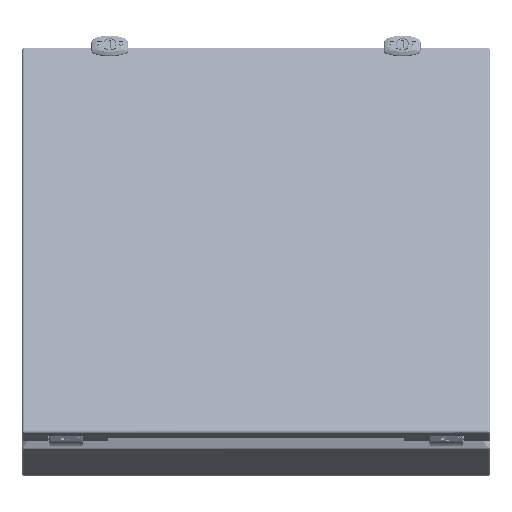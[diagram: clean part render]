
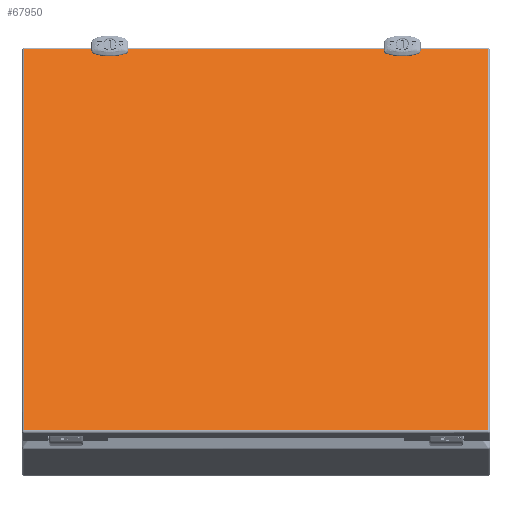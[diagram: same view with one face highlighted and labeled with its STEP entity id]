
A CAD part, top view. The second image highlights one B-rep face of the part: STEP entity #67950.
In plain terms, the highlighted planar face has unit normal (0, 0.574, 0.819) as drawn and (0, 0, 1) by its records, which use the part's own axes.
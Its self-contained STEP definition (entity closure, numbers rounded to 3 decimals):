
#5384=LINE('',#106834,#10879);
#5419=LINE('',#106932,#10914);
#5422=LINE('',#106945,#10917);
#5426=LINE('',#106962,#10921);
#5427=LINE('',#106964,#10922);
#5428=LINE('',#106968,#10923);
#5429=LINE('',#106972,#10924);
#5430=LINE('',#106974,#10925);
#5431=LINE('',#106976,#10926);
#5432=LINE('',#106978,#10927);
#5433=LINE('',#106980,#10928);
#5434=LINE('',#106981,#10929);
#10879=VECTOR('',#81559,0.394);
#10914=VECTOR('',#81628,0.394);
#10917=VECTOR('',#81643,0.394);
#10921=VECTOR('',#81665,0.394);
#10922=VECTOR('',#81666,0.394);
#10923=VECTOR('',#81669,0.394);
#10924=VECTOR('',#81672,0.394);
#10925=VECTOR('',#81673,0.394);
#10926=VECTOR('',#81674,0.394);
#10927=VECTOR('',#81675,0.394);
#10928=VECTOR('',#81676,0.394);
#10929=VECTOR('',#81677,0.394);
#17146=FACE_OUTER_BOUND('',#21322,.T.);
#21322=EDGE_LOOP('',(#48638,#48639,#48640,#48641,#48642,#48643,#48644,#48645,
#48646,#48647,#48648,#48649,#48650,#48651,#48652,#48653));
#25270=CIRCLE('',#73122,0.03);
#25272=CIRCLE('',#73126,0.03);
#25274=CIRCLE('',#73133,0.03);
#25275=CIRCLE('',#73134,0.03);
#28961=VERTEX_POINT('',#106832);
#28962=VERTEX_POINT('',#106833);
#29007=VERTEX_POINT('',#106929);
#29008=VERTEX_POINT('',#106931);
#29010=VERTEX_POINT('',#106938);
#29012=VERTEX_POINT('',#106944);
#29016=VERTEX_POINT('',#106961);
#29017=VERTEX_POINT('',#106963);
#29018=VERTEX_POINT('',#106965);
#29019=VERTEX_POINT('',#106967);
#29020=VERTEX_POINT('',#106969);
#29021=VERTEX_POINT('',#106971);
#29022=VERTEX_POINT('',#106973);
#29023=VERTEX_POINT('',#106975);
#29024=VERTEX_POINT('',#106977);
#29025=VERTEX_POINT('',#106979);
#36204=EDGE_CURVE('',#28961,#28962,#5384,.T.);
#36253=EDGE_CURVE('',#29008,#29007,#5419,.T.);
#36257=EDGE_CURVE('',#29010,#28961,#25270,.T.);
#36260=EDGE_CURVE('',#29012,#29010,#5422,.T.);
#36263=EDGE_CURVE('',#29007,#29012,#25272,.T.);
#36269=EDGE_CURVE('',#28962,#29016,#5426,.T.);
#36270=EDGE_CURVE('',#29016,#29017,#5427,.T.);
#36271=EDGE_CURVE('',#29017,#29018,#25274,.T.);
#36272=EDGE_CURVE('',#29018,#29019,#5428,.T.);
#36273=EDGE_CURVE('',#29019,#29020,#25275,.T.);
#36274=EDGE_CURVE('',#29020,#29021,#5429,.T.);
#36275=EDGE_CURVE('',#29021,#29022,#5430,.T.);
#36276=EDGE_CURVE('',#29023,#29022,#5431,.T.);
#36277=EDGE_CURVE('',#29023,#29024,#5432,.T.);
#36278=EDGE_CURVE('',#29024,#29025,#5433,.T.);
#36279=EDGE_CURVE('',#29025,#29008,#5434,.T.);
#48638=ORIENTED_EDGE('',*,*,#36253,.T.);
#48639=ORIENTED_EDGE('',*,*,#36263,.T.);
#48640=ORIENTED_EDGE('',*,*,#36260,.T.);
#48641=ORIENTED_EDGE('',*,*,#36257,.T.);
#48642=ORIENTED_EDGE('',*,*,#36204,.T.);
#48643=ORIENTED_EDGE('',*,*,#36269,.T.);
#48644=ORIENTED_EDGE('',*,*,#36270,.T.);
#48645=ORIENTED_EDGE('',*,*,#36271,.T.);
#48646=ORIENTED_EDGE('',*,*,#36272,.T.);
#48647=ORIENTED_EDGE('',*,*,#36273,.T.);
#48648=ORIENTED_EDGE('',*,*,#36274,.T.);
#48649=ORIENTED_EDGE('',*,*,#36275,.T.);
#48650=ORIENTED_EDGE('',*,*,#36276,.F.);
#48651=ORIENTED_EDGE('',*,*,#36277,.T.);
#48652=ORIENTED_EDGE('',*,*,#36278,.T.);
#48653=ORIENTED_EDGE('',*,*,#36279,.T.);
#65996=PLANE('',#73132);
#67950=ADVANCED_FACE('',(#17146),#65996,.T.);
#73122=AXIS2_PLACEMENT_3D('',#106939,#81637,#81638);
#73126=AXIS2_PLACEMENT_3D('',#106949,#81649,#81650);
#73132=AXIS2_PLACEMENT_3D('',#106960,#81663,#81664);
#73133=AXIS2_PLACEMENT_3D('',#106966,#81667,#81668);
#73134=AXIS2_PLACEMENT_3D('',#106970,#81670,#81671);
#81559=DIRECTION('',(0.,1.,0.));
#81628=DIRECTION('',(0.,-1.,0.));
#81637=DIRECTION('center_axis',(0.,0.,-1.));
#81638=DIRECTION('ref_axis',(-1.,0.,0.));
#81643=DIRECTION('',(-1.,0.,0.));
#81649=DIRECTION('center_axis',(0.,0.,-1.));
#81650=DIRECTION('ref_axis',(0.,-1.,0.));
#81663=DIRECTION('center_axis',(0.,0.,1.));
#81664=DIRECTION('ref_axis',(1.,0.,0.));
#81665=DIRECTION('',(-1.,0.,0.));
#81666=DIRECTION('',(0.,-1.,0.));
#81667=DIRECTION('center_axis',(0.,0.,-1.));
#81668=DIRECTION('ref_axis',(0.,-1.,0.));
#81669=DIRECTION('',(-1.,0.,0.));
#81670=DIRECTION('center_axis',(0.,0.,-1.));
#81671=DIRECTION('ref_axis',(-1.,0.,0.));
#81672=DIRECTION('',(0.,1.,0.));
#81673=DIRECTION('',(-1.,0.,0.));
#81674=DIRECTION('',(0.,1.,0.));
#81675=DIRECTION('',(1.,0.,0.));
#81676=DIRECTION('',(0.,1.,0.));
#81677=DIRECTION('',(-1.,0.,0.));
#106832=CARTESIAN_POINT('',(4.438,7.867,0.053));
#106833=CARTESIAN_POINT('',(4.438,7.956,0.053));
#106834=CARTESIAN_POINT('',(4.438,4.035,0.053));
#106929=CARTESIAN_POINT('',(5.563,7.867,0.053));
#106931=CARTESIAN_POINT('',(5.563,7.956,0.053));
#106932=CARTESIAN_POINT('',(5.563,3.933,0.053));
#106938=CARTESIAN_POINT('',(4.468,7.837,0.053));
#106939=CARTESIAN_POINT('Origin',(4.468,7.867,0.053));
#106944=CARTESIAN_POINT('',(5.533,7.837,0.053));
#106945=CARTESIAN_POINT('',(2.234,7.837,0.053));
#106949=CARTESIAN_POINT('Origin',(5.533,7.867,0.053));
#106960=CARTESIAN_POINT('Origin',(0.,0.,
0.053));
#106961=CARTESIAN_POINT('',(-4.438,7.956,0.053));
#106962=CARTESIAN_POINT('',(-4.,7.956,0.053));
#106963=CARTESIAN_POINT('',(-4.438,7.867,0.053));
#106964=CARTESIAN_POINT('',(-4.438,3.933,0.053));
#106965=CARTESIAN_POINT('',(-4.468,7.837,0.053));
#106966=CARTESIAN_POINT('Origin',(-4.468,7.867,0.053));
#106967=CARTESIAN_POINT('',(-5.533,7.837,0.053));
#106968=CARTESIAN_POINT('',(-2.766,7.837,0.053));
#106969=CARTESIAN_POINT('',(-5.563,7.867,0.053));
#106970=CARTESIAN_POINT('Origin',(-5.533,7.867,0.053));
#106971=CARTESIAN_POINT('',(-5.563,7.956,0.053));
#106972=CARTESIAN_POINT('',(-5.563,4.035,0.053));
#106973=CARTESIAN_POINT('',(-7.916,7.956,0.053));
#106974=CARTESIAN_POINT('',(-4.,7.956,0.053));
#106975=CARTESIAN_POINT('',(-7.916,-7.956,0.053));
#106976=CARTESIAN_POINT('',(-7.916,-7.54,0.053));
#106977=CARTESIAN_POINT('',(7.916,-7.956,0.053));
#106978=CARTESIAN_POINT('',(4.,-7.956,0.053));
#106979=CARTESIAN_POINT('',(7.916,7.956,0.053));
#106980=CARTESIAN_POINT('',(7.916,4.02,0.053));
#106981=CARTESIAN_POINT('',(-4.,7.956,0.053));
